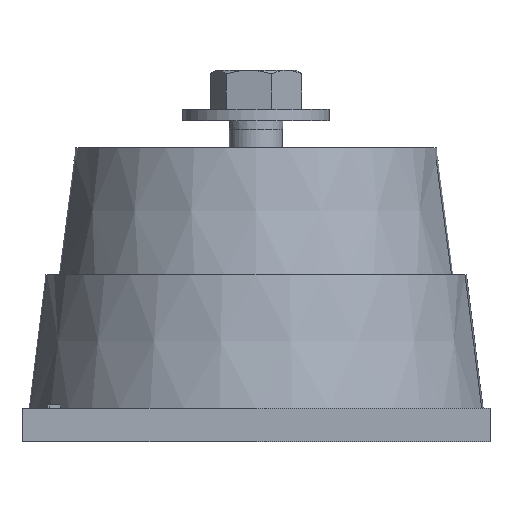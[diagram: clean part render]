
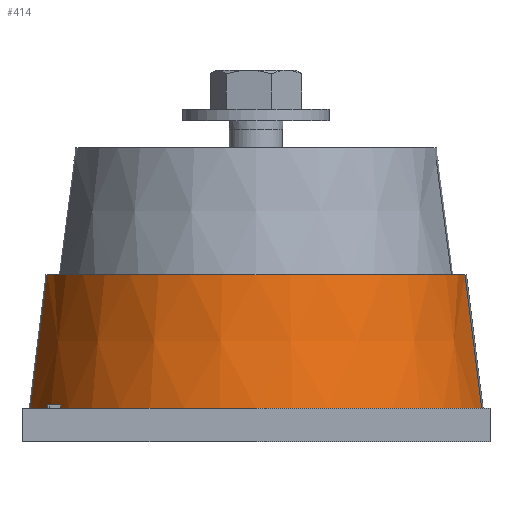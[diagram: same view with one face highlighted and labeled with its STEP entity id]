
A CAD part, front view. The second image highlights one B-rep face of the part: STEP entity #414.
In plain terms, the highlighted conical face has half-angle 7.125 degrees and reference radius 51.991 mm.
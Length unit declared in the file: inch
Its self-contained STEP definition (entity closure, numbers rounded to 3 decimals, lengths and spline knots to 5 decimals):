
#266=CARTESIAN_POINT('',(1.95281,-0.25,1.5625));
#267=VERTEX_POINT('',#266);
#268=CARTESIAN_POINT('',(2.11024,-0.25,0.3125));
#269=VERTEX_POINT('',#268);
#270=CARTESIAN_POINT('',(1.95281,-0.25,1.5625));
#271=CARTESIAN_POINT('',(2.02852,-0.25,0.96172));
#272=CARTESIAN_POINT('',(2.11024,-0.25,0.3125));
#280=(BOUNDED_CURVE()B_SPLINE_CURVE(2,(#270,#271,#272),.UNSPECIFIED.,.F.,.U.)B_SPLINE_CURVE_WITH_KNOTS((3,3),(0.0,3.20008),.UNSPECIFIED.)CURVE()GEOMETRIC_REPRESENTATION_ITEM()RATIONAL_B_SPLINE_CURVE((1.0,1.001,1.0))REPRESENTATION_ITEM(''));
#281=EDGE_CURVE('',#267,#269,#280,.T.);
#357=CARTESIAN_POINT('',(0.0,0.0,0.9375));
#358=DIRECTION('',(0.0,0.0,-1.0));
#359=DIRECTION('',(0.0,-1.0,0.0));
#360=AXIS2_PLACEMENT_3D('',#357,#358,#359);
#361=CONICAL_SURFACE('',#360,2.04688,7.125);
#362=CARTESIAN_POINT('',(-2.11024,-0.25,0.3125));
#363=VERTEX_POINT('',#362);
#364=CARTESIAN_POINT('',(-1.95281,-0.25,1.5625));
#365=VERTEX_POINT('',#364);
#366=CARTESIAN_POINT('',(-2.11024,-0.25,0.3125));
#367=CARTESIAN_POINT('',(-2.02852,-0.25,0.96172));
#368=CARTESIAN_POINT('',(-1.95281,-0.25,1.5625));
#376=(BOUNDED_CURVE()B_SPLINE_CURVE(2,(#366,#367,#368),.UNSPECIFIED.,.F.,.U.)B_SPLINE_CURVE_WITH_KNOTS((3,3),(0.0,3.20008),.UNSPECIFIED.)CURVE()GEOMETRIC_REPRESENTATION_ITEM()RATIONAL_B_SPLINE_CURVE((1.0,1.001,1.0))REPRESENTATION_ITEM(''));
#377=EDGE_CURVE('',#363,#365,#376,.T.);
#378=ORIENTED_EDGE('',*,*,#377,.F.);
#379=CARTESIAN_POINT('',(0.0,-2.125,0.3125));
#380=VERTEX_POINT('',#379);
#381=CARTESIAN_POINT('',(0.0,0.0,0.3125));
#382=DIRECTION('',(0.0,0.0,-1.0));
#383=DIRECTION('',(0.0,-1.0,0.0));
#384=AXIS2_PLACEMENT_3D('',#381,#382,#383);
#385=CIRCLE('',#384,2.125);
#386=EDGE_CURVE('',#380,#363,#385,.T.);
#387=ORIENTED_EDGE('',*,*,#386,.F.);
#388=CARTESIAN_POINT('',(0.0,0.0,0.3125));
#389=DIRECTION('',(0.0,0.0,-1.0));
#390=DIRECTION('',(0.0,-1.0,0.0));
#391=AXIS2_PLACEMENT_3D('',#388,#389,#390);
#392=CIRCLE('',#391,2.125);
#393=EDGE_CURVE('',#269,#380,#392,.T.);
#394=ORIENTED_EDGE('',*,*,#393,.F.);
#395=ORIENTED_EDGE('',*,*,#281,.F.);
#396=CARTESIAN_POINT('',(0.0,-1.96875,1.5625));
#397=VERTEX_POINT('',#396);
#398=CARTESIAN_POINT('',(0.0,0.0,1.5625));
#399=DIRECTION('',(0.0,0.0,-1.0));
#400=DIRECTION('',(0.0,-1.0,0.0));
#401=AXIS2_PLACEMENT_3D('',#398,#399,#400);
#402=CIRCLE('',#401,1.96875);
#403=EDGE_CURVE('',#267,#397,#402,.T.);
#404=ORIENTED_EDGE('',*,*,#403,.T.);
#405=CARTESIAN_POINT('',(0.0,0.0,1.5625));
#406=DIRECTION('',(0.0,0.0,-1.0));
#407=DIRECTION('',(0.0,-1.0,0.0));
#408=AXIS2_PLACEMENT_3D('',#405,#406,#407);
#409=CIRCLE('',#408,1.96875);
#410=EDGE_CURVE('',#397,#365,#409,.T.);
#411=ORIENTED_EDGE('',*,*,#410,.T.);
#412=EDGE_LOOP('',(#378,#387,#394,#395,#404,#411));
#413=FACE_OUTER_BOUND('',#412,.T.);
#414=ADVANCED_FACE('',(#413),#361,.T.);
